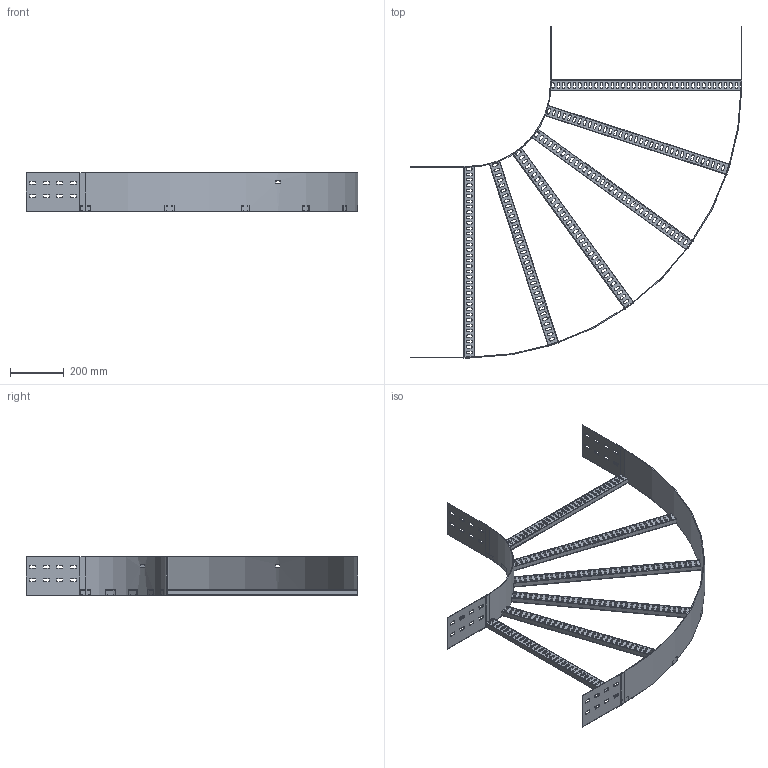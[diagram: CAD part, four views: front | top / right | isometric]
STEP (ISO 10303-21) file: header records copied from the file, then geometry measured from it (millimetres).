
FILE_DESCRIPTION(/* description */ ('','CAx-IF Rec.Pracs.---Representation and Presentation of Product Manufacturing Information (PMI)---4.0---2014-10-13'),/* implementation_level */ '2;1');
FILE_NAME(/* name */ 'Eurostrut_EFB150-700-90-300_Bend 90 for Cable Ladder ECL.step',/* time_stamp */ '2026-09-07T12:15:40+02:00',/* author */ (''),/* organization */ (''),/* preprocessor_version */ 'ST-DEVELOPER v20.1',/* originating_system */ 'Autodesk Revit 2027 27.2.0.39',/* authorisation */ '');
FILE_SCHEMA (('AP242_MANAGED_MODEL_BASED_3D_ENGINEERING_MIM_LF { 1 0 10303 442 2 1 4 }'));
Length unit declared in the file: millimetre
Products named in the file (6): TopLevelAssembly; Sweep; Extrusion; Extrusion_1; Eurostrut_Cable Ladder_Rung_Horizontal Bend_With slots; Eurostrut_Cable Ladder_Accessory End SWEEP
Assembly tree (8 placements, depth 2):
  TopLevelAssembly
    Sweep
    Extrusion
    Extrusion_1
    Eurostrut_Cable Ladder_Rung_Horizontal Bend_With slots
    Eurostrut_Cable Ladder_Accessory End SWEEP  x4
Bounding box: 1231 x 1231 x 142 mm (x, y, z)
Volume: 1750028 mm3; surface area: 1579540.1 mm2
Topology: 16 solids, 16 shells, 1168 faces, 3408 edges, 2272 vertices
Faces by surface type: plane 708, bspline 432, cylinder 28
Entity records: 48132 total; most frequent: CARTESIAN_POINT 19504, ORIENTED_EDGE 6168, DIRECTION 5284, EDGE_CURVE 3084, LINE 2156, VECTOR 2156, VERTEX_POINT 2056, AXIS2_PLACEMENT_3D 1564
